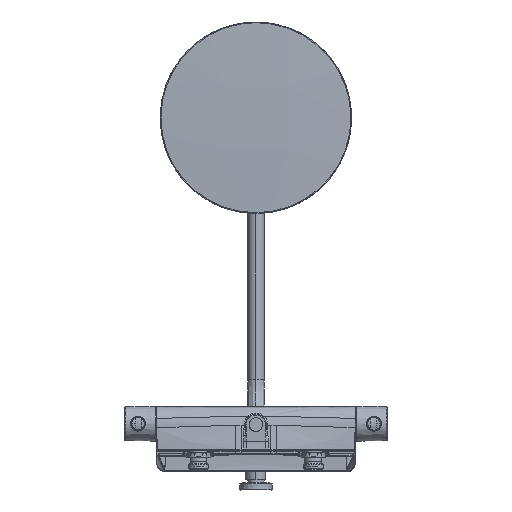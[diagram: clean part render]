
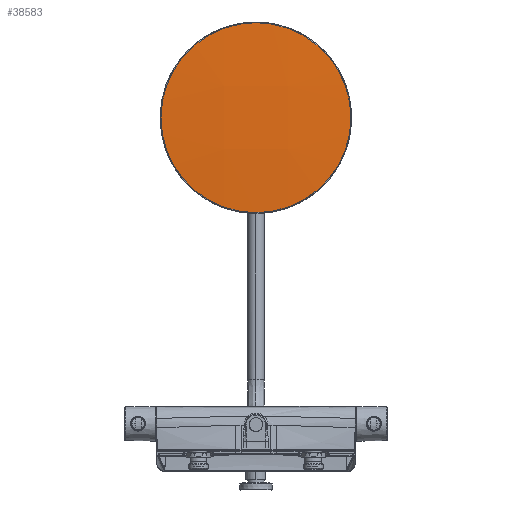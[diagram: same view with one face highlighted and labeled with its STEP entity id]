
A CAD part, front view. The second image highlights one B-rep face of the part: STEP entity #38583.
In plain terms, the highlighted free-form (B-spline) face has degree [3, 3] with [4, 4] control points.
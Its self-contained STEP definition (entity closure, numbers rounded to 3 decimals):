
#5271 = AXIS2_PLACEMENT_3D ( 'NONE', #39882, #10917, #21861 ) ;
#5797 = CARTESIAN_POINT ( 'NONE',  ( 126.279, 84.491, 518.901 ) ) ;
#6110 = CARTESIAN_POINT ( 'NONE',  ( 126.279, 90.041, 602.836 ) ) ;
#6278 = CARTESIAN_POINT ( 'NONE',  ( -125.531, 90.005, 602.838 ) ) ;
#7532 = VERTEX_POINT ( 'NONE', #32665 ) ;
#9378 = CARTESIAN_POINT ( 'NONE',  ( -125.531, 85.578, 350.715 ) ) ;
#9825 = EDGE_CURVE ( 'NONE', #7532, #36059, #20850, .T. ) ;
#10917 = DIRECTION ( 'NONE',  ( 0., -1., 0.017 ) ) ;
#10999 = ORIENTED_EDGE ( 'NONE', *, *, #12880, .T. ) ;
#12880 = EDGE_CURVE ( 'NONE', #36059, #7532, #42071, .T. ) ;
#13428 = CARTESIAN_POINT ( 'NONE',  ( 42.375, 81.545, 350.591 ) ) ;
#17025 = CARTESIAN_POINT ( 'NONE',  ( 126.279, 83.015, 434.795 ) ) ;
#17175 = CARTESIAN_POINT ( 'NONE',  ( -41.627, 78.929, 434.801 ) ) ;
#19526 = CARTESIAN_POINT ( 'NONE',  ( 0., 84.66, 476.565 ) ) ;
#20850 = CIRCLE ( 'NONE', #34639, 124.039 ) ;
#21861 = DIRECTION ( 'NONE',  ( -1., 0., 0. ) ) ;
#23270 = DIRECTION ( 'NONE',  ( 0., -1., 0.017 ) ) ;
#23606 = CARTESIAN_POINT ( 'NONE',  ( -125.531, 82.978, 434.795 ) ) ;
#24071 = CARTESIAN_POINT ( 'NONE',  ( 126.279, 85.614, 350.716 ) ) ;
#26891 = DIRECTION ( 'NONE',  ( -1., 0., 0. ) ) ;
#27212 = FACE_OUTER_BOUND ( 'NONE', #32426, .T. ) ;
#27673 = CARTESIAN_POINT ( 'NONE',  ( -41.627, 80.408, 519.038 ) ) ;
#30112 = ORIENTED_EDGE ( 'NONE', *, *, #9825, .T. ) ;
#30842 = CARTESIAN_POINT ( 'NONE',  ( 42.375, 80.421, 519.038 ) ) ;
#31315 = CARTESIAN_POINT ( 'NONE',  ( -125.531, 84.455, 518.902 ) ) ;
#32426 = EDGE_LOOP ( 'NONE', ( #10999, #30112 ) ) ;
#32665 = CARTESIAN_POINT ( 'NONE',  ( 124.039, 84.66, 476.565 ) ) ;
#33137 =( BOUNDED_SURFACE ( )  B_SPLINE_SURFACE ( 3, 3, ( 
 ( #6110, #5797, #17025, #24071 ),
 ( #38046, #30842, #34921, #13428 ),
 ( #34606, #27673, #17175, #42240 ),
 ( #6278, #31315, #23606, #9378 ) ),
 .UNSPECIFIED., .F., .F., .F. ) 
 B_SPLINE_SURFACE_WITH_KNOTS ( ( 4, 4 ),
 ( 4, 4 ),
 ( 0., 1. ),
 ( 0., 1. ),
 .UNSPECIFIED. ) 
 GEOMETRIC_REPRESENTATION_ITEM ( )  RATIONAL_B_SPLINE_SURFACE ( (
 ( 1., 0.999, 0.999, 1.),
 ( 0.999, 0.998, 0.998, 0.999),
 ( 0.999, 0.998, 0.998, 0.999),
 ( 1., 0.999, 0.999, 1.) ) ) 
 REPRESENTATION_ITEM ( '' )  SURFACE ( )  );
#34606 = CARTESIAN_POINT ( 'NONE',  ( -41.627, 85.966, 603.105 ) ) ;
#34639 = AXIS2_PLACEMENT_3D ( 'NONE', #19526, #23270, #26891 ) ;
#34921 = CARTESIAN_POINT ( 'NONE',  ( 42.375, 78.942, 434.801 ) ) ;
#36059 = VERTEX_POINT ( 'NONE', #45960 ) ;
#38046 = CARTESIAN_POINT ( 'NONE',  ( 42.375, 85.979, 603.105 ) ) ;
#38583 = ADVANCED_FACE ( 'NONE', ( #27212 ), #33137, .T. ) ;
#39882 = CARTESIAN_POINT ( 'NONE',  ( 0., 84.66, 476.565 ) ) ;
#42071 = CIRCLE ( 'NONE', #5271, 124.039 ) ;
#42240 = CARTESIAN_POINT ( 'NONE',  ( -41.627, 81.533, 350.59 ) ) ;
#45960 = CARTESIAN_POINT ( 'NONE',  ( -124.039, 84.66, 476.565 ) ) ;
